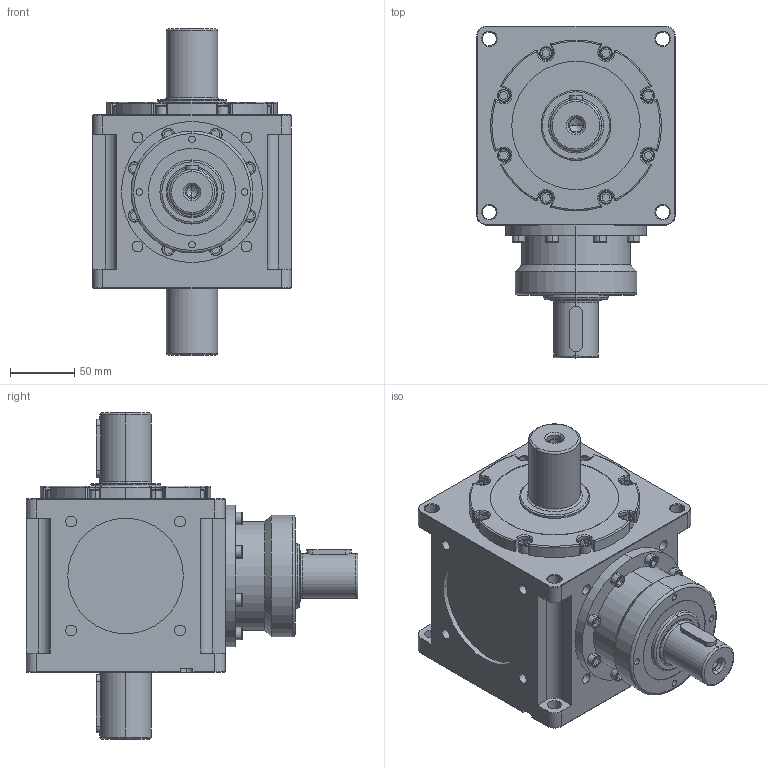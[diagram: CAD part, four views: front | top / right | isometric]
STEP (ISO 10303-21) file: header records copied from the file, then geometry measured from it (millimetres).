
FILE_DESCRIPTION (( 'STEP AP214' ), '1' );
FILE_NAME ('CCT155A-002-2P.STEP', '2025-05-24T05:35:43', ( '微软用户' ), ( '微软中国' ), 'SwSTEP 2.0', 'SolidWorks 2024', '' );
FILE_SCHEMA (( 'AUTOMOTIVE_DESIGN' ));
Length unit declared in the file: millimetre
Products named in the file (3): CCT155A-002-2P; CCW155A-002-2P箱体; CCW155A输入组件
Assembly tree (2 placements, depth 2):
  CCT155A-002-2P
    CCW155A-002-2P箱体
    CCW155A输入组件
Bounding box: 155 x 258.5 x 254 mm (x, y, z)
Volume: 3588521.8 mm3; surface area: 220303.3 mm2
Topology: 2 solids, 2 shells, 576 faces, 1345 edges, 827 vertices
Faces by surface type: plane 234, cylinder 215, torus 73, cone 38, sphere 16
Entity records: 16614 total; most frequent: DIRECTION 3078, CARTESIAN_POINT 2955, ORIENTED_EDGE 2646, EDGE_CURVE 1323, AXIS2_PLACEMENT_3D 1184, VERTEX_POINT 827, LINE 710, VECTOR 710
